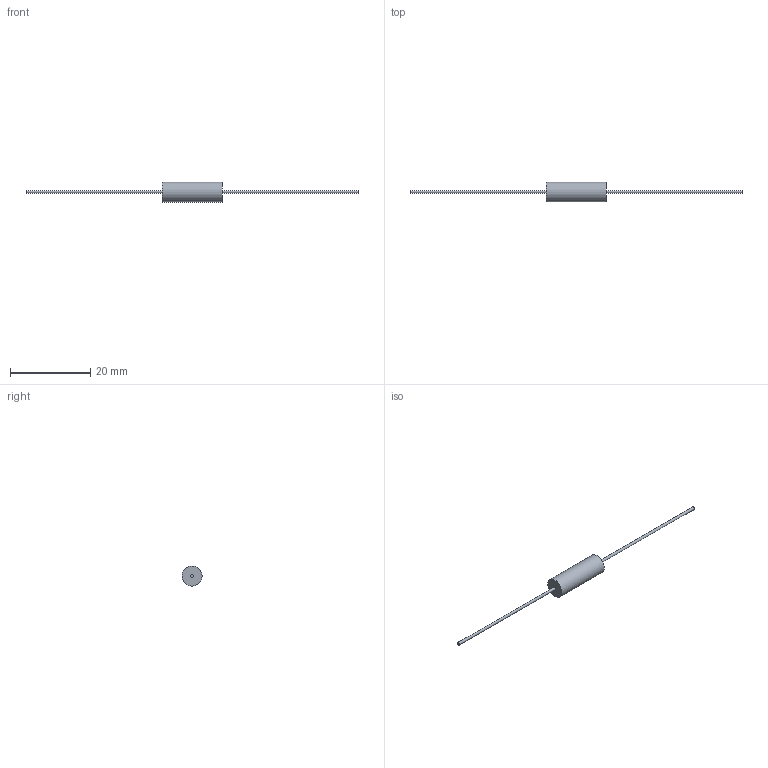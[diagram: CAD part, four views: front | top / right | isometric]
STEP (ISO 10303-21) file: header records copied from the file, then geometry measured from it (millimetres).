
FILE_DESCRIPTION(/* description */ (''),/* implementation_level */ '2;1');
FILE_NAME(/* name */ 'C:\Users\mulla\Documents\SEI Models\Inventor Files\RNF\RNF2_stp.stp',/* time_stamp */ '2019-06-12T14:16:28-04:00',/* author */ ('mulla'),/* organization */ (''),/* preprocessor_version */ 'ST-DEVELOPER v16.1',/* originating_system */ 'Autodesk Inventor 2016',/* authorisation */ '');
FILE_SCHEMA (('AUTOMOTIVE_DESIGN { 1 0 10303 214 3 1 1 }'));
Length unit declared in the file: millimetre
Products named in the file (1): RNF2
Bounding box: 83 x 5 x 5 mm (x, y, z)
Volume: 320.7 mm3; surface area: 426 mm2
Topology: 3 solids, 3 shells, 9 faces, 9 edges, 6 vertices
Faces by surface type: plane 6, cylinder 3
Full cylindrical faces by diameter (mm): 0.7 x2, 5 x1
Entity records: 186 total; most frequent: DIRECTION 32, CARTESIAN_POINT 22, AXIS2_PLACEMENT_3D 16, EDGE_LOOP 12, ORIENTED_EDGE 12, FACE_OUTER_BOUND 9, ADVANCED_FACE 9, PLANE 6
